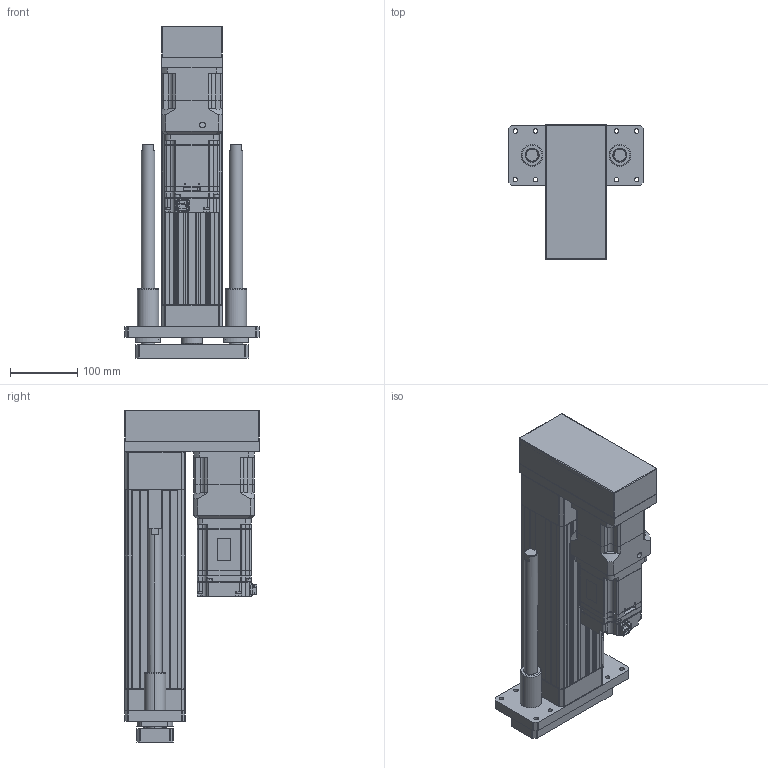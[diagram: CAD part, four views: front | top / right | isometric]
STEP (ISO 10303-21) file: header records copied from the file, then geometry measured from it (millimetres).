
FILE_DESCRIPTION (( 'STEP AP203' ), '1' );
FILE_NAME ('ANS090H-GP150-05(10)(25)-W75G05.STEP', '2019-03-18T02:24:56', ( 'user' ), ( '' ), 'SwSTEP 2.0', 'SolidWorks 2013', '' );
FILE_SCHEMA (( 'CONFIG_CONTROL_DESIGN' ));
Length unit declared in the file: millimetre
Products named in the file (5): AB090-005-S1-P2[YASKAWA SGMJV08A]; ANS090H GP150 VER2; ANS090H-GP150-05(10)(25)-W75G05; ANS090 ROD ST150-G; SGMJV_08A_A21
Assembly tree (4 placements, depth 2):
  ANS090H-GP150-05(10)(25)-W75G05
    ANS090H GP150 VER2
    ANS090 ROD ST150-G
    SGMJV_08A_A21
    AB090-005-S1-P2[YASKAWA SGMJV08A]
Bounding box: 200 x 200 x 492 mm (x, y, z)
Volume: 3458136.9 mm3; surface area: 693278.2 mm2
Topology: 3 solids, 14 shells, 1545 faces, 4030 edges, 2588 vertices
Faces by surface type: plane 828, cylinder 529, cone 164, bspline 12, sphere 8, torus 4
Entity records: 48188 total; most frequent: CARTESIAN_POINT 9040, DIRECTION 8191, ORIENTED_EDGE 7932, EDGE_CURVE 4010, AXIS2_PLACEMENT_3D 2779, VECTOR 2633, LINE 2633, VERTEX_POINT 2588
